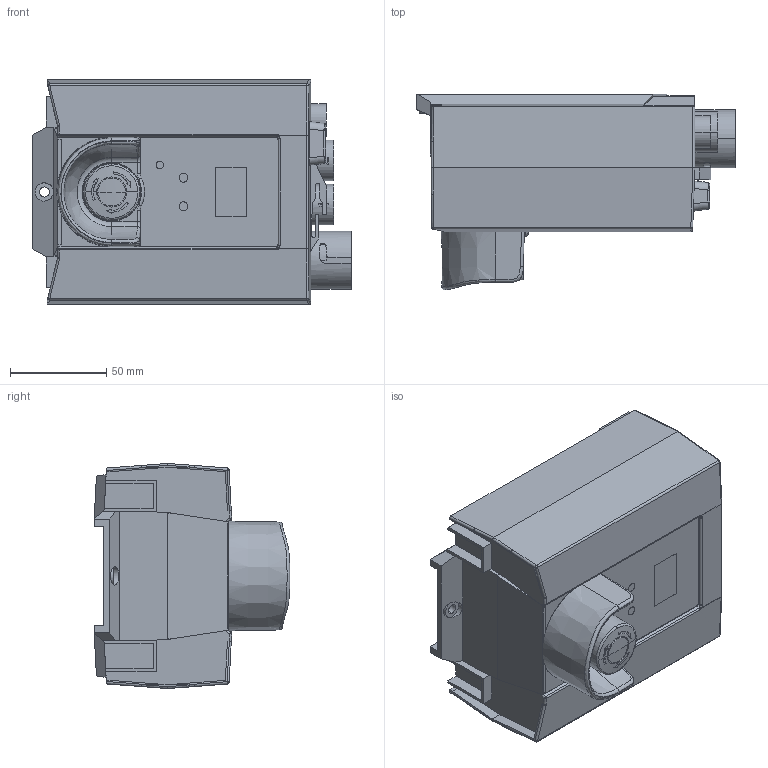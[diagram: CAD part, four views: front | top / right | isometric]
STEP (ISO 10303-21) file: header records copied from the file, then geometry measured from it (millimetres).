
FILE_DESCRIPTION((''),'2;1');
FILE_NAME('940081','2014-02-27T',('jeh'),(''),'PRO/ENGINEER BY PARAMETRIC TECHNOLOGY CORPORATION, 2013150','PRO/ENGINEER BY PARAMETRIC TECHNOLOGY CORPORATION, 2013150','');
FILE_SCHEMA(('CONFIG_CONTROL_DESIGN'));
Length unit declared in the file: millimetre
Products named in the file (1): 940081
Bounding box: 165.5 x 101.73 x 117 mm (x, y, z)
Surface area: 93146.6 mm2 (no closed solid volume)
Topology: 0 solids, 10 shells, 733 faces, 1875 edges, 1172 vertices
Faces by surface type: plane 299, cylinder 233, bspline 84, torus 74, sphere 24, cone 16, extrusion 3
Entity records: 29142 total; most frequent: CARTESIAN_POINT 11287, ORIENTED_EDGE 3704, DIRECTION 3472, EDGE_CURVE 1852, AXIS2_PLACEMENT_3D 1300, VERTEX_POINT 1172, VECTOR 872, LINE 869
